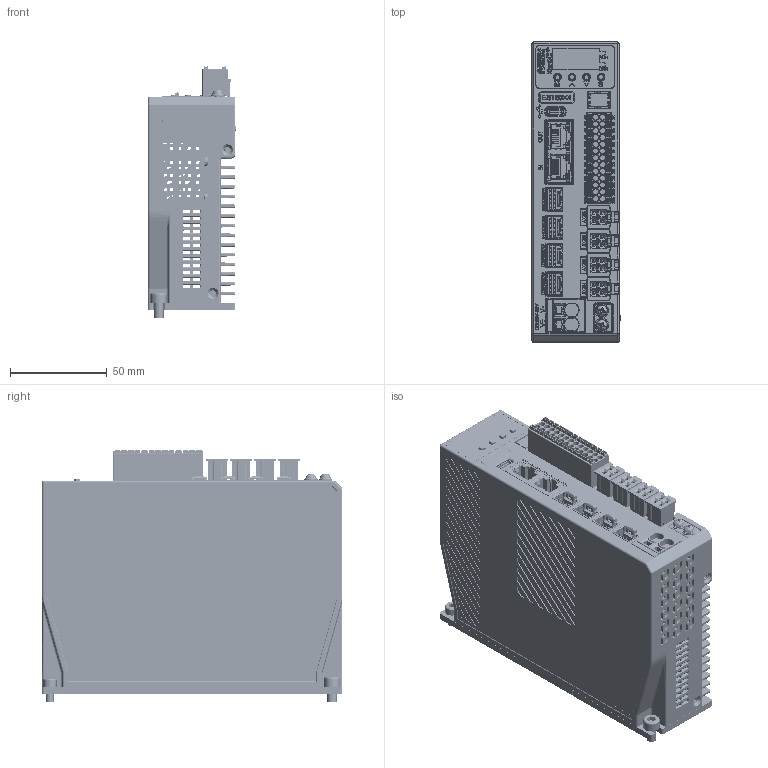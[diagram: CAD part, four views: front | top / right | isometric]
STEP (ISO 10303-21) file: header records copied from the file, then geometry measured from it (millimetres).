
FILE_DESCRIPTION((''),'2;1');
FILE_NAME('RT-ZP-EST60X4_ASM','2025-12-19T15:44:52',('ruiwe'),(''),'CREO PARAMETRIC BY PTC INC, 2021063','CREO PARAMETRIC BY PTC INC, 2021063','');
FILE_SCHEMA(('CONFIG_CONTROL_DESIGN','SHAPE_APPEARANCE_LAYERS_GROUPS'));
Products named in the file (25): RT-DZ-EST60X4; ISHCS0601_; RT-GZ-EST60X4; RT-DLB-EST60X4-A_; RT-DLB-EST60X4-B_; EST60X4-10P_000; EST60X4--JACK-A_000; EST60X4-TYPE-C_; RT-MB-EST60X4-A_; RT-EST60X4-DY-4_0-004P; EST60X4-2X13P-A_00; EST60X4-JL271R-5_0-02P-A; EST60X4_0S-3_52X5-0001; RT-EST60X4-DYWK-4_0-004P; ISHCS0502; RT-DB-EST60X4-_0001; RT-PEDZ-EST60X4; ICRPS0402; IWPSA04; IWPNA04; EST60X4-2P00; EST60X4-GSP002RC-3_81-04P; ICRFC0402; ICRPS0404; RT-ZP-EST60X4_ASM
Assembly tree (37 placements, depth 2):
  RT-ZP-EST60X4_ASM
    RT-DZ-EST60X4
    ISHCS0601_
    RT-GZ-EST60X4
    RT-DLB-EST60X4-A_
    RT-DLB-EST60X4-B_
    EST60X4-10P_000  x4
    EST60X4--JACK-A_000
    EST60X4-TYPE-C_
    RT-MB-EST60X4-A_
    RT-EST60X4-DY-4_0-004P  x4
    EST60X4-2X13P-A_00
    EST60X4-JL271R-5_0-02P-A
    EST60X4_0S-3_52X5-0001
    RT-EST60X4-DYWK-4_0-004P  x4
    ISHCS0502
    RT-DB-EST60X4-_0001
    RT-PEDZ-EST60X4
    ICRPS0402  x2
    IWPSA04  x2
    IWPNA04  x2
    EST60X4-2P00
    EST60X4-GSP002RC-3_81-04P
    ICRFC0402  x2
    ICRPS0404
Bounding box: 45.4 x 155.25 x 130.45 mm (x, y, z)
Volume: 247325.3 mm3; surface area: 256233.6 mm2
Topology: 37 solids, 459 shells, 8261 faces, 26828 edges, 19446 vertices
Faces by surface type: plane 6132, cylinder 1384, cone 384, torus 157, sphere 114, bspline 90
Entity records: 299305 total; most frequent: CARTESIAN_POINT 68767, ORIENTED_EDGE 38350, DIRECTION 34490, EDGE_CURVE 22539, VERTEX_POINT 16775, VECTOR 15448, LINE 15448, AXIS2_PLACEMENT_3D 9521
